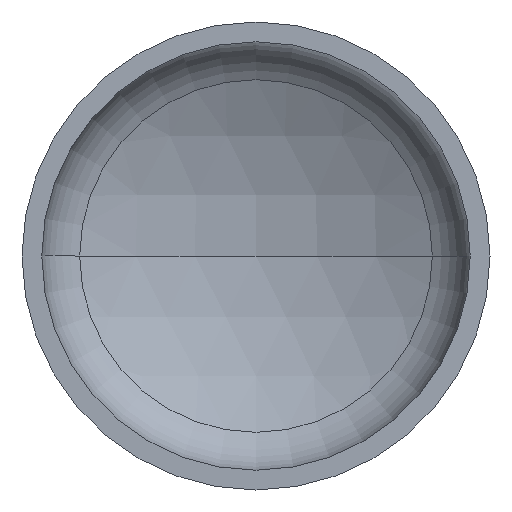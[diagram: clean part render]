
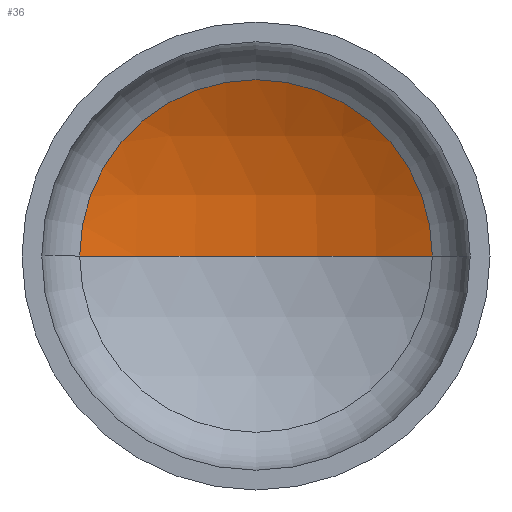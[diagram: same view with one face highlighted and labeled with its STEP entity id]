
A CAD part, front view. The second image highlights one B-rep face of the part: STEP entity #36.
In plain terms, the highlighted spherical face has radius 1360 mm.
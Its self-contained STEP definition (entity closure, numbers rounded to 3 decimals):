
#8 = CARTESIAN_POINT ( 'NONE',  ( 0., -850.4, 0. ) ) ;
#22 = AXIS2_PLACEMENT_3D ( 'NONE', #8, #332, #171 ) ;
#24 = AXIS2_PLACEMENT_3D ( 'NONE', #158, #159, #164 ) ;
#25 = AXIS2_PLACEMENT_3D ( 'NONE', #203, #208, #194 ) ;
#36 = ADVANCED_FACE ( 'NONE', ( #115 ), #404, .F. ) ;
#42 = AXIS2_PLACEMENT_3D ( 'NONE', #294, #256, #295 ) ;
#60 = EDGE_CURVE ( 'NONE', #90, #136, #95, .T. ) ;
#77 = ORIENTED_EDGE ( 'NONE', *, *, #60, .T. ) ;
#80 = EDGE_CURVE ( 'NONE', #184, #90, #322, .T. ) ;
#90 = VERTEX_POINT ( 'NONE', #247 ) ;
#95 = CIRCLE ( 'NONE', #25, 640.436 ) ;
#109 = EDGE_CURVE ( 'NONE', #184, #136, #384, .T. ) ;
#115 = FACE_OUTER_BOUND ( 'NONE', #292, .T. ) ;
#129 = CARTESIAN_POINT ( 'NONE',  ( -640.436, 349.367, 0. ) ) ;
#136 = VERTEX_POINT ( 'NONE', #129 ) ;
#158 = CARTESIAN_POINT ( 'NONE',  ( 0., -850.4, 0. ) ) ;
#159 = DIRECTION ( 'NONE',  ( 0., 0., -1. ) ) ;
#164 = DIRECTION ( 'NONE',  ( -1., 0., 0. ) ) ;
#168 = ORIENTED_EDGE ( 'NONE', *, *, #80, .T. ) ;
#171 = DIRECTION ( 'NONE',  ( 1., 0., 0. ) ) ;
#183 = ORIENTED_EDGE ( 'NONE', *, *, #109, .F. ) ;
#184 = VERTEX_POINT ( 'NONE', #282 ) ;
#194 = DIRECTION ( 'NONE',  ( 1., 0., 0. ) ) ;
#203 = CARTESIAN_POINT ( 'NONE',  ( 0., 349.367, 0. ) ) ;
#208 = DIRECTION ( 'NONE',  ( 0., -1., 0. ) ) ;
#247 = CARTESIAN_POINT ( 'NONE',  ( 640.436, 349.367, 0. ) ) ;
#256 = DIRECTION ( 'NONE',  ( 0., 0., -1. ) ) ;
#282 = CARTESIAN_POINT ( 'NONE',  ( 0., 509.6, 0. ) ) ;
#292 = EDGE_LOOP ( 'NONE', ( #183, #168, #77 ) ) ;
#294 = CARTESIAN_POINT ( 'NONE',  ( 0., -850.4, 0. ) ) ;
#295 = DIRECTION ( 'NONE',  ( -1., 0., 0. ) ) ;
#322 = CIRCLE ( 'NONE', #24, 1360. ) ;
#332 = DIRECTION ( 'NONE',  ( 0., 0., 1. ) ) ;
#384 = CIRCLE ( 'NONE', #22, 1360. ) ;
#404 = SPHERICAL_SURFACE ( 'NONE', #42, 1360. ) ;
